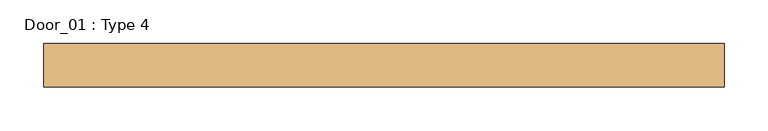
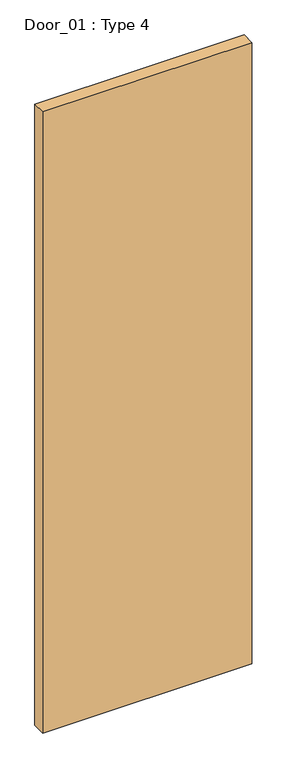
"""IFC4 building model written with IfcOpenShell, lengths in millimetres: door geometry, Door_01 : Type 4."""

from ifc_helpers import new_model, si_unit, origin, origin_with_axes, place, context, project, spatial, polyline, outline, extrude, source, transform, mapped, element, save


def door_01_type_4_c44ae645(model_context):
    return source(origin(), model_context, "Body", "SweptSolid", [
        extrude(outline(polyline([(390.0, -137.5), (-390.0, -137.5), (-390.0, -87.5), (390.0, -87.5), (390.0, -137.5)])), origin_with_axes(), (0.0, 0.0, 1.0), 2450.0),
    ])


if __name__ == "__main__":
    model = new_model("IFC4")
    model_context = context("Model", 3, world=origin())
    ifc_project = project(units=[si_unit("LENGTHUNIT", "METRE", prefix="MILLI")], contexts=[model_context])
    site = spatial("IfcSite", under=ifc_project)
    building = spatial("IfcBuilding", under=site)
    placement = place(None, origin())
    door_01_type_4_shape = door_01_type_4_c44ae645(model_context)
    element("IfcDoor", 1, ObjectType="Door_01 : Type 4", at=placement, inside=building, context=model_context, shape_type="MappedRepresentation", body=[
        mapped(door_01_type_4_shape, transform((0.0, 0.0, 0.0), x_axis=(1.0, 0.0, 0.0), y_axis=(0.0, 1.0, 0.0), z_axis=(0.0, 0.0, 1.0))),
    ])
    save(model, "model.ifc")
